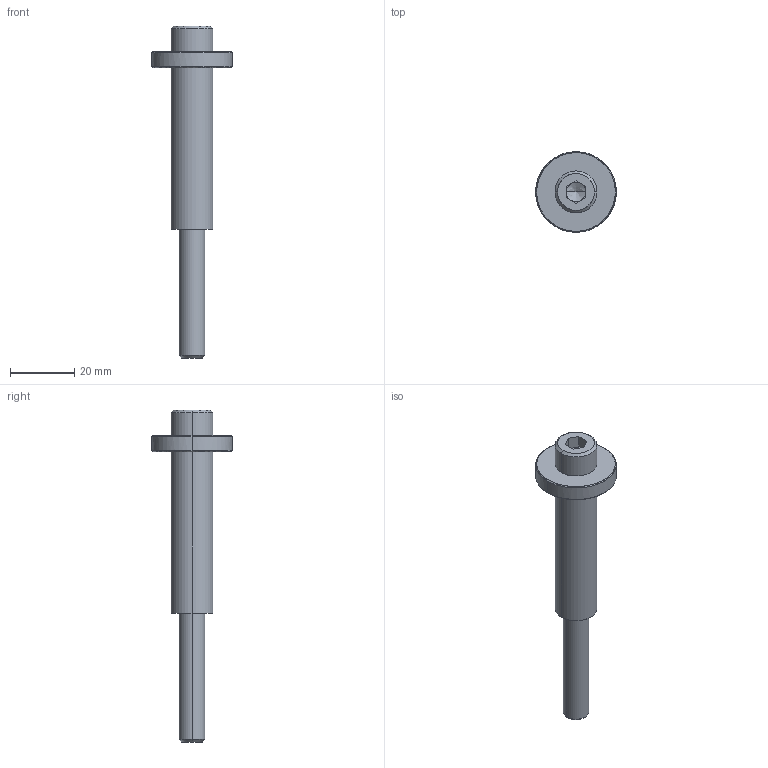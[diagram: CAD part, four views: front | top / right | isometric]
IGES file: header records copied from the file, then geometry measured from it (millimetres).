
Global section: file name: E:\UnigraphicsGraphicData\MISUMI_PRESS-PARTS\IGES\3d_sbrh13-50-95-25_05049_r00.igs; native system: NX V5.0; preprocessor: UGS NX IGES V5.0; author: MISUMI; date: 20110105.162428; units: millimetre
Bounding box: 25 x 24.99 x 103 mm (x, y, z)
Surface area: 7846.7 mm2 (no closed solid volume)
Topology: 0 solids, 0 shells, 45 faces, 252 edges, 250 vertices
Faces by surface type: bspline 45
